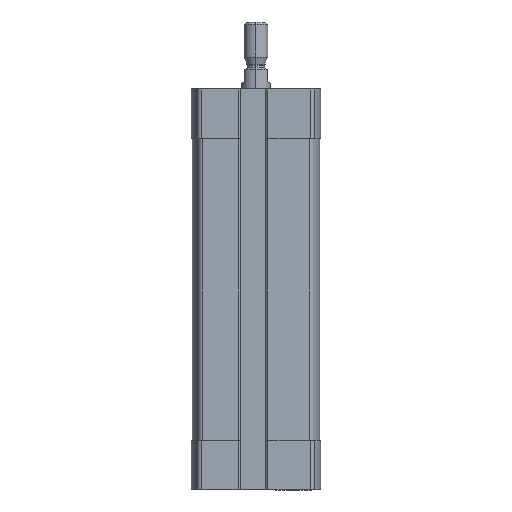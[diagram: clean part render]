
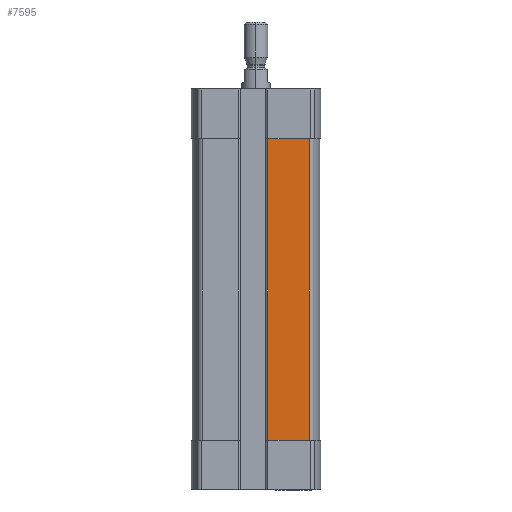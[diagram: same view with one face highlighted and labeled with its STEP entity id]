
A CAD part, left-side view. The second image highlights one B-rep face of the part: STEP entity #7595.
In plain terms, the highlighted planar face has unit normal (-1, 0, 0).
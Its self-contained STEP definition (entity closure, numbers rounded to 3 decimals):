
#186 = VERTEX_POINT ( 'NONE', #6884 ) ;
#364 = DIRECTION ( 'NONE',  ( -1., 0., 0. ) ) ;
#440 = ORIENTED_EDGE ( 'NONE', *, *, #3235, .T. ) ;
#670 = VECTOR ( 'NONE', #6266, 1000. ) ;
#814 = LINE ( 'NONE', #1302, #1091 ) ;
#902 = CARTESIAN_POINT ( 'NONE',  ( -13.5, -11.329, -10.5 ) ) ;
#1040 = CARTESIAN_POINT ( 'NONE',  ( -13.5, -2.5, -10.5 ) ) ;
#1091 = VECTOR ( 'NONE', #7544, 1000. ) ;
#1302 = CARTESIAN_POINT ( 'NONE',  ( -13.5, -2.5, -74.5 ) ) ;
#1388 = ORIENTED_EDGE ( 'NONE', *, *, #9533, .T. ) ;
#1394 = VERTEX_POINT ( 'NONE', #1611 ) ;
#1604 = DIRECTION ( 'NONE',  ( 0., 0., -1. ) ) ;
#1611 = CARTESIAN_POINT ( 'NONE',  ( -13.5, -2.5, -74.5 ) ) ;
#2042 = ORIENTED_EDGE ( 'NONE', *, *, #6321, .T. ) ;
#2175 = CARTESIAN_POINT ( 'NONE',  ( -13.5, -11.329, -74.5 ) ) ;
#3093 = LINE ( 'NONE', #11406, #7560 ) ;
#3235 = EDGE_CURVE ( 'NONE', #8577, #6718, #5385, .T. ) ;
#4970 = EDGE_CURVE ( 'NONE', #6718, #1394, #3093, .T. ) ;
#4987 = VECTOR ( 'NONE', #7523, 1000. ) ;
#5385 = LINE ( 'NONE', #9834, #670 ) ;
#5915 = ORIENTED_EDGE ( 'NONE', *, *, #4970, .T. ) ;
#6266 = DIRECTION ( 'NONE',  ( 0., 1., 0. ) ) ;
#6321 = EDGE_CURVE ( 'NONE', #186, #8577, #9482, .T. ) ;
#6606 = DIRECTION ( 'NONE',  ( 0., 0., 1. ) ) ;
#6718 = VERTEX_POINT ( 'NONE', #1040 ) ;
#6734 = EDGE_LOOP ( 'NONE', ( #1388, #2042, #440, #5915 ) ) ;
#6884 = CARTESIAN_POINT ( 'NONE',  ( -13.5, -11.329, -74.5 ) ) ;
#7336 = AXIS2_PLACEMENT_3D ( 'NONE', #11036, #364, #6606 ) ;
#7523 = DIRECTION ( 'NONE',  ( 0., 0., 1. ) ) ;
#7544 = DIRECTION ( 'NONE',  ( 0., -1., 0. ) ) ;
#7560 = VECTOR ( 'NONE', #1604, 1000. ) ;
#7595 = ADVANCED_FACE ( 'NONE', ( #8378 ), #11082, .T. ) ;
#8378 = FACE_OUTER_BOUND ( 'NONE', #6734, .T. ) ;
#8577 = VERTEX_POINT ( 'NONE', #902 ) ;
#9482 = LINE ( 'NONE', #2175, #4987 ) ;
#9533 = EDGE_CURVE ( 'NONE', #1394, #186, #814, .T. ) ;
#9834 = CARTESIAN_POINT ( 'NONE',  ( -13.5, 0., -10.5 ) ) ;
#11036 = CARTESIAN_POINT ( 'NONE',  ( -13.5, -2.5, -74.5 ) ) ;
#11082 = PLANE ( 'NONE',  #7336 ) ;
#11406 = CARTESIAN_POINT ( 'NONE',  ( -13.5, -2.5, -74.5 ) ) ;
